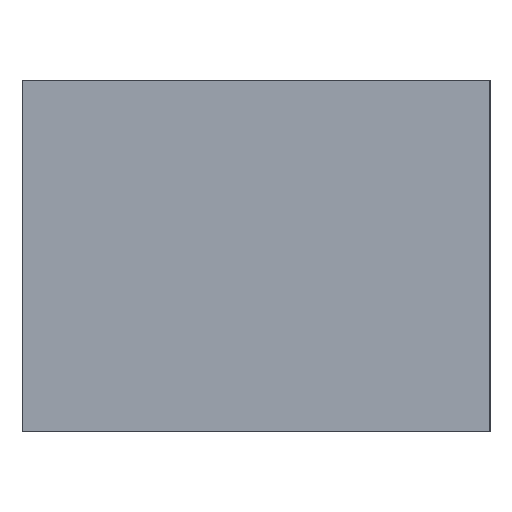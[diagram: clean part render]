
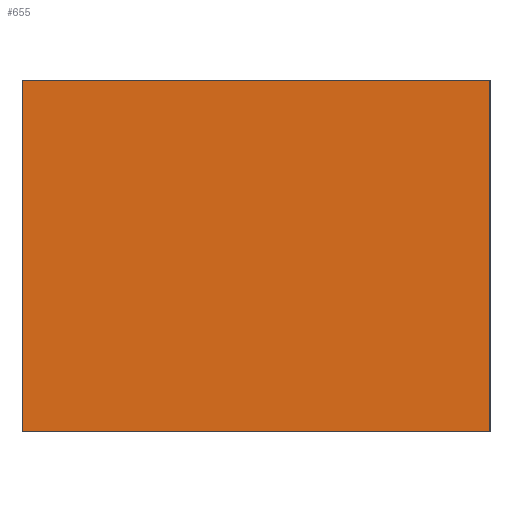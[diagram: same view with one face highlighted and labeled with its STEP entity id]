
A CAD part, left-side view. The second image highlights one B-rep face of the part: STEP entity #655.
In plain terms, the highlighted planar face has unit normal (-1, 0, 0).
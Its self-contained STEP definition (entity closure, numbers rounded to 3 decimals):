
#40=DIRECTION('',(0.,-1.,0.));
#41=VECTOR('',#40,40.);
#42=CARTESIAN_POINT('',(0.,40.,0.));
#43=LINE('',#42,#41);
#47=DIRECTION('',(0.,0.,1.));
#48=VECTOR('',#47,30.);
#49=CARTESIAN_POINT('',(0.,0.,0.));
#50=LINE('',#49,#48);
#150=DIRECTION('',(0.,0.,1.));
#151=VECTOR('',#150,30.);
#152=CARTESIAN_POINT('',(0.,40.,0.));
#153=LINE('',#152,#151);
#274=DIRECTION('',(0.,-1.,0.));
#275=VECTOR('',#274,40.);
#276=CARTESIAN_POINT('',(0.,40.,30.));
#277=LINE('',#276,#275);
#471=CARTESIAN_POINT('',(0.,0.,0.));
#473=VERTEX_POINT('',#471);
#477=CARTESIAN_POINT('',(0.,40.,0.));
#478=VERTEX_POINT('',#477);
#479=CARTESIAN_POINT('',(0.,0.,30.));
#481=VERTEX_POINT('',#479);
#485=CARTESIAN_POINT('',(0.,40.,30.));
#486=VERTEX_POINT('',#485);
#642=CARTESIAN_POINT('',(0.,40.,0.));
#643=DIRECTION('',(-1.,0.,0.));
#644=DIRECTION('',(0.,-1.,0.));
#645=AXIS2_PLACEMENT_3D('',#642,#643,#644);
#646=PLANE('',#645);
#647=ORIENTED_EDGE('',*,*,#562,.F.);
#649=ORIENTED_EDGE('',*,*,#648,.T.);
#651=ORIENTED_EDGE('',*,*,#650,.T.);
#652=ORIENTED_EDGE('',*,*,#585,.F.);
#653=EDGE_LOOP('',(#647,#649,#651,#652));
#654=FACE_OUTER_BOUND('',#653,.F.);
#562=EDGE_CURVE('',#478,#473,#43,.T.);
#585=EDGE_CURVE('',#473,#481,#50,.T.);
#648=EDGE_CURVE('',#478,#486,#153,.T.);
#650=EDGE_CURVE('',#486,#481,#277,.T.);
#655=ADVANCED_FACE('',(#654),#646,.T.);
